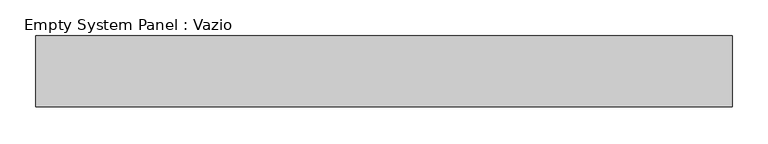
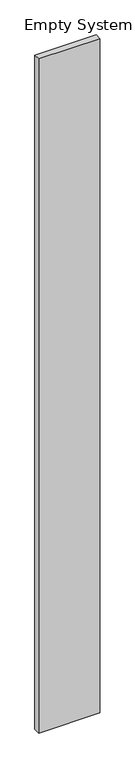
"""IFC4 building model written with IfcOpenShell, lengths in millimetres: plate geometry, Empty System Panel : Vazio."""

from ifc_helpers import new_model, si_unit, frame, origin, place, context, project, spatial, polyline, outline, extrude, source, transform, mapped, element, save


def empty_system_panel_vazio_d8e21128(model_context):
    return source(origin(), model_context, "Body", "SweptSolid", [
        extrude(outline(polyline([(0.0, -490.0), (0.0, 490.0), (11384.9644567, 490.0), (11384.9029976, -490.0), (0.0, -490.0)])), frame((0.0, 50.0, 0.0), z_axis=(0.0, 1.0, 0.0), x_axis=(0.0, 0.0, 1.0)), (0.0, 0.0, 1.0), 100.0),
    ])


if __name__ == "__main__":
    model = new_model("IFC4")
    model_context = context("Model", 3, world=origin())
    ifc_project = project(units=[si_unit("LENGTHUNIT", "METRE", prefix="MILLI")], contexts=[model_context])
    site = spatial("IfcSite", under=ifc_project)
    building = spatial("IfcBuilding", under=site)
    placement = place(None, origin())
    empty_system_panel_vazio_shape = empty_system_panel_vazio_d8e21128(model_context)
    element("IfcPlate", 1, ObjectType="Empty System Panel : Vazio", at=placement, inside=building, context=model_context, shape_type="MappedRepresentation", body=[
        mapped(empty_system_panel_vazio_shape, transform((0.0, 0.0, 0.0), x_axis=(1.0, 0.0, 0.0), y_axis=(0.0, 1.0, 0.0), z_axis=(0.0, 0.0, 1.0))),
    ])
    save(model, "model.ifc")
